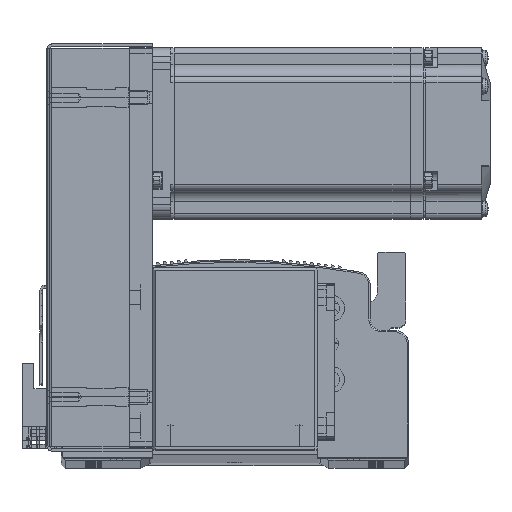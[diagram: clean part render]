
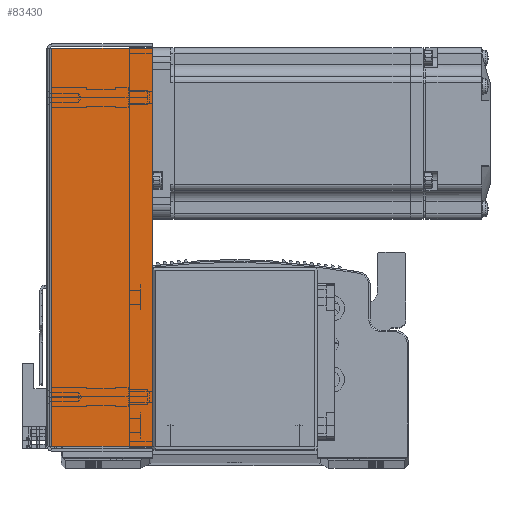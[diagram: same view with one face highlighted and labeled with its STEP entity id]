
A CAD part, top view. The second image highlights one B-rep face of the part: STEP entity #83430.
In plain terms, the highlighted planar face has unit normal (0, 0, 1) as drawn and (0, 0, -1) by its records, which use the part's own axes.
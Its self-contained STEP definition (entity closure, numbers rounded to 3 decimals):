
#13989 = CARTESIAN_POINT ( 'NONE',  ( -69.793, 0.737, -33.5 ) ) ;
#14018 = CARTESIAN_POINT ( 'NONE',  ( 69.793, 36., -33.5 ) ) ;
#14249 = CARTESIAN_POINT ( 'NONE',  ( 69.793, 0.737, -33.5 ) ) ;
#16482 = CARTESIAN_POINT ( 'NONE',  ( 69.793, 0., -33.5 ) ) ;
#16495 = DIRECTION ( 'NONE',  ( 0., 1., 0. ) ) ;
#16498 = CARTESIAN_POINT ( 'NONE',  ( 0., 36., -33.5 ) ) ;
#16517 = DIRECTION ( 'NONE',  ( 1., 0., 0. ) ) ;
#16572 = DIRECTION ( 'NONE',  ( 1., 0., 0. ) ) ;
#16608 = CARTESIAN_POINT ( 'NONE',  ( 71.5, 0.737, -33.5 ) ) ;
#16777 = CARTESIAN_POINT ( 'NONE',  ( -69.793, 0., -33.5 ) ) ;
#16821 = DIRECTION ( 'NONE',  ( 0., 1., 0. ) ) ;
#23785 = VECTOR ( 'NONE', #16495, 1000. ) ;
#23794 = VECTOR ( 'NONE', #16572, 1000. ) ;
#23823 = LINE ( 'NONE', #16608, #23794 ) ;
#23829 = VECTOR ( 'NONE', #16517, 1000. ) ;
#23834 = LINE ( 'NONE', #16498, #23829 ) ;
#23838 = LINE ( 'NONE', #16482, #23785 ) ;
#23849 = LINE ( 'NONE', #16777, #23892 ) ;
#23892 = VECTOR ( 'NONE', #16821, 1000. ) ;
#55542 = EDGE_LOOP ( 'NONE', ( #84763, #84634, #84715, #84670 ) ) ;
#62641 = FACE_OUTER_BOUND ( 'NONE', #55542, .T. ) ;
#64712 = PLANE ( 'NONE',  #65528 ) ;
#64773 = DIRECTION ( 'NONE',  ( 0., 0., 1. ) ) ;
#64785 = CARTESIAN_POINT ( 'NONE',  ( 0., 0., -33.5 ) ) ;
#64803 = DIRECTION ( 'NONE',  ( 0., -1., 0. ) ) ;
#65528 = AXIS2_PLACEMENT_3D ( 'NONE', #64785, #64773, #64803 ) ;
#77715 = VERTEX_POINT ( 'NONE', #13989 ) ;
#77719 = VERTEX_POINT ( 'NONE', #14018 ) ;
#77802 = VERTEX_POINT ( 'NONE', #14249 ) ;
#77821 = VERTEX_POINT ( 'NONE', #78437 ) ;
#78437 = CARTESIAN_POINT ( 'NONE',  ( -69.793, 36., -33.5 ) ) ;
#81295 = EDGE_CURVE ( 'NONE', #77821, #77719, #23834, .T. ) ;
#81296 = EDGE_CURVE ( 'NONE', #77802, #77719, #23838, .T. ) ;
#81304 = EDGE_CURVE ( 'NONE', #77715, #77802, #23823, .T. ) ;
#81342 = EDGE_CURVE ( 'NONE', #77715, #77821, #23849, .T. ) ;
#83430 = ADVANCED_FACE ( 'NONE', ( #62641 ), #64712, .F. ) ;
#84634 = ORIENTED_EDGE ( 'NONE', *, *, #81342, .T. ) ;
#84670 = ORIENTED_EDGE ( 'NONE', *, *, #81296, .F. ) ;
#84715 = ORIENTED_EDGE ( 'NONE', *, *, #81295, .T. ) ;
#84763 = ORIENTED_EDGE ( 'NONE', *, *, #81304, .F. ) ;
